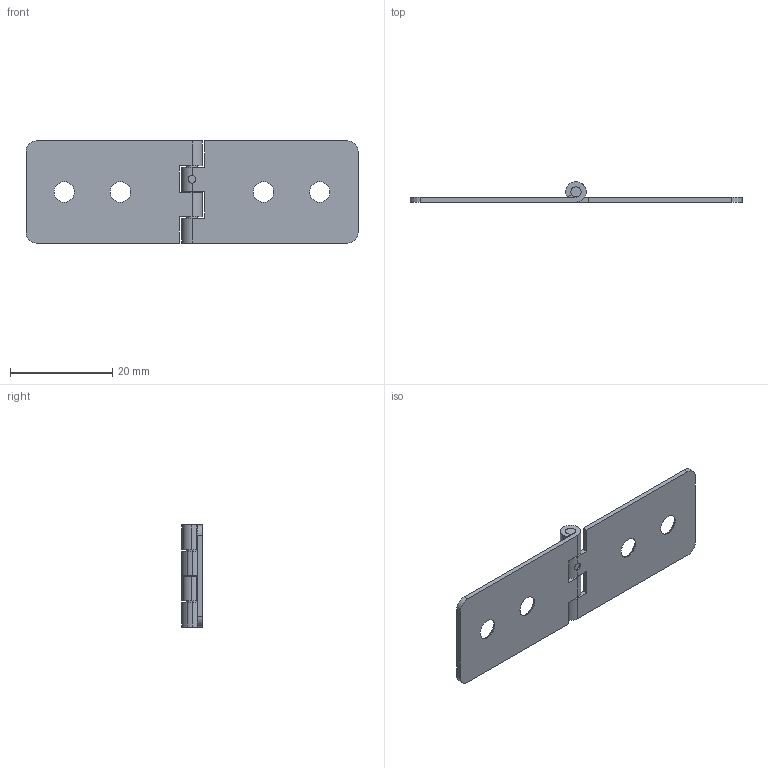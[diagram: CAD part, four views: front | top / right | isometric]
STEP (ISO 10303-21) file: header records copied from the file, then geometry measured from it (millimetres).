
FILE_DESCRIPTION(('STEP AP214'),'1');
FILE_NAME('52-1-4013.stp','2017-04-12T16:08:39',('TraceParts'),('TraceParts S.A.'),'Spatial InterOp 3D',' ',' ');
FILE_SCHEMA(('automotive_design'));
Length unit declared in the file: millimetre
Products named in the file (3): 52-1-4013_1; 52-1-4013_2; 52-1-4013_3
Bounding box: 65 x 4 x 20 mm (x, y, z)
Volume: 1384.1 mm3; surface area: 3130.7 mm2
Topology: 3 solids, 3 shells, 97 faces, 261 edges, 170 vertices
Faces by surface type: cylinder 56, plane 33, cone 8
Entity records: 3152 total; most frequent: DIRECTION 579, CARTESIAN_POINT 547, ORIENTED_EDGE 522, EDGE_CURVE 261, AXIS2_PLACEMENT_3D 220, VERTEX_POINT 170, LINE 139, VECTOR 139
